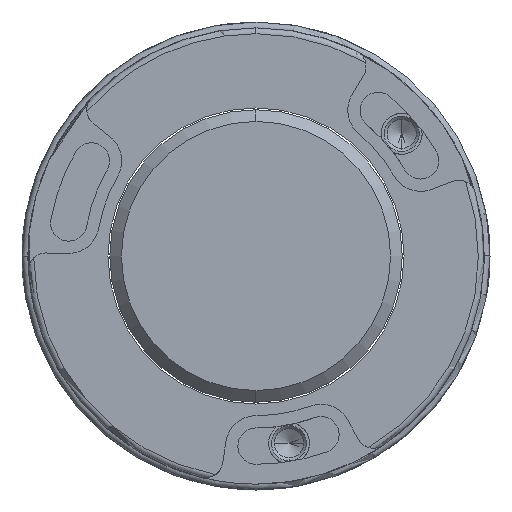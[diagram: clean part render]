
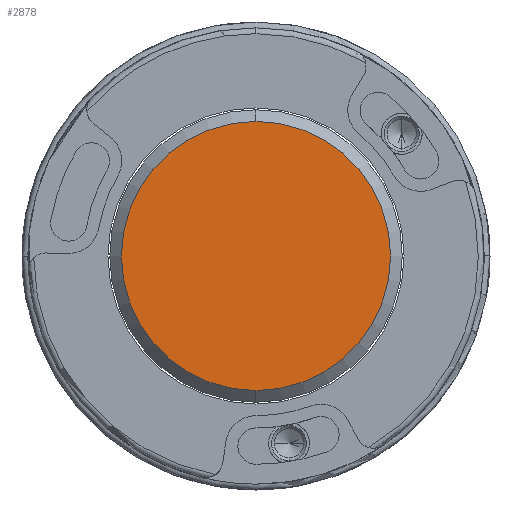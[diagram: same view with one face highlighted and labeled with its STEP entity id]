
A CAD part, left-side view. The second image highlights one B-rep face of the part: STEP entity #2878.
In plain terms, the highlighted planar face has unit normal (-1, 0, 0).
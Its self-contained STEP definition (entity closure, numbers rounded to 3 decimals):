
#123 = AXIS2_PLACEMENT_3D ( 'NONE', #7190, #4941, #7216 ) ;
#586 = VERTEX_POINT ( 'NONE', #1307 ) ;
#1081 = EDGE_CURVE ( 'NONE', #586, #1931, #1356, .T. ) ;
#1169 = DIRECTION ( 'NONE',  ( 0., 0., 1. ) ) ;
#1307 = CARTESIAN_POINT ( 'NONE',  ( -10., 0., 11.5 ) ) ;
#1356 = CIRCLE ( 'NONE', #123, 11.5 ) ;
#1732 = EDGE_CURVE ( 'NONE', #1931, #586, #4141, .T. ) ;
#1764 = ORIENTED_EDGE ( 'NONE', *, *, #1732, .T. ) ;
#1931 = VERTEX_POINT ( 'NONE', #3734 ) ;
#2602 = AXIS2_PLACEMENT_3D ( 'NONE', #7040, #4662, #1169 ) ;
#2878 = ADVANCED_FACE ( 'NONE', ( #6857 ), #5774, .T. ) ;
#3734 = CARTESIAN_POINT ( 'NONE',  ( -10., 0., -11.5 ) ) ;
#4067 = ORIENTED_EDGE ( 'NONE', *, *, #1081, .T. ) ;
#4101 = DIRECTION ( 'NONE',  ( -1., 0., 0. ) ) ;
#4141 = CIRCLE ( 'NONE', #2602, 11.5 ) ;
#4662 = DIRECTION ( 'NONE',  ( -1., 0., 0. ) ) ;
#4941 = DIRECTION ( 'NONE',  ( -1., 0., 0. ) ) ;
#5268 = AXIS2_PLACEMENT_3D ( 'NONE', #7576, #4101, #5879 ) ;
#5774 = PLANE ( 'NONE',  #5268 ) ;
#5879 = DIRECTION ( 'NONE',  ( 0., 0., 1. ) ) ;
#6857 = FACE_OUTER_BOUND ( 'NONE', #7280, .T. ) ;
#7040 = CARTESIAN_POINT ( 'NONE',  ( -10., 0., 0. ) ) ;
#7190 = CARTESIAN_POINT ( 'NONE',  ( -10., 0., 0. ) ) ;
#7216 = DIRECTION ( 'NONE',  ( 0., 0., 1. ) ) ;
#7280 = EDGE_LOOP ( 'NONE', ( #1764, #4067 ) ) ;
#7576 = CARTESIAN_POINT ( 'NONE',  ( -10., 0., 0. ) ) ;
